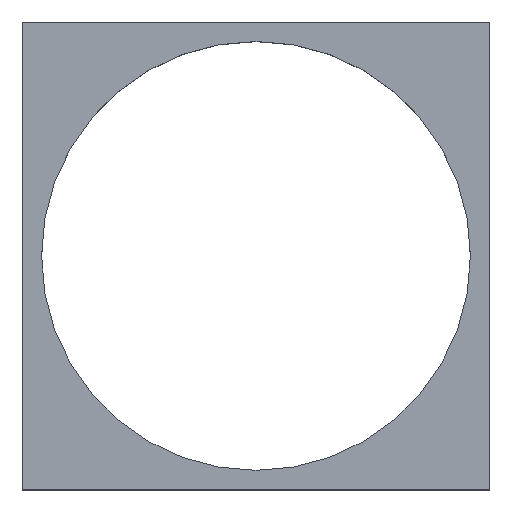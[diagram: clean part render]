
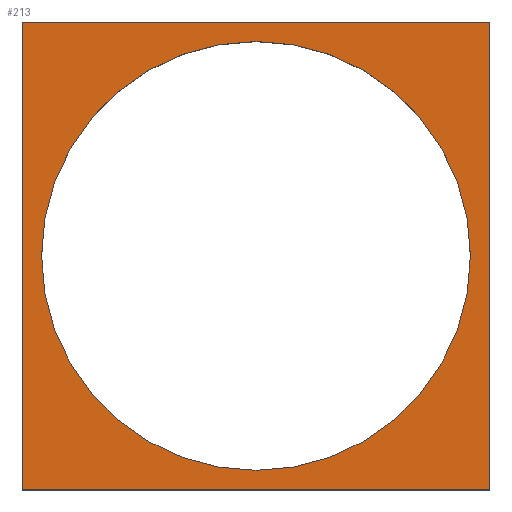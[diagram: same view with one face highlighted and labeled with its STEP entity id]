
A CAD part, top view. The second image highlights one B-rep face of the part: STEP entity #213.
In plain terms, the highlighted planar face has unit normal (0, 0, 1).
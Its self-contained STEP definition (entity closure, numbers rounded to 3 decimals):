
#24 = VERTEX_POINT('',#25);
#25 = CARTESIAN_POINT('',(20.,80.,737.));
#32 = PLANE('',#33);
#33 = AXIS2_PLACEMENT_3D('',#34,#35,#36);
#34 = CARTESIAN_POINT('',(20.,80.,712.));
#35 = DIRECTION('',(1.,0.,0.));
#36 = DIRECTION('',(0.,0.,1.));
#44 = PLANE('',#45);
#45 = AXIS2_PLACEMENT_3D('',#46,#47,#48);
#46 = CARTESIAN_POINT('',(20.,80.,712.));
#47 = DIRECTION('',(0.,1.,0.));
#48 = DIRECTION('',(0.,0.,1.));
#85 = VERTEX_POINT('',#86);
#86 = CARTESIAN_POINT('',(20.,200.,737.));
#100 = PLANE('',#101);
#101 = AXIS2_PLACEMENT_3D('',#102,#103,#104);
#102 = CARTESIAN_POINT('',(20.,200.,712.));
#103 = DIRECTION('',(0.,1.,0.));
#104 = DIRECTION('',(0.,0.,1.));
#112 = EDGE_CURVE('',#24,#85,#113,.T.);
#113 = SURFACE_CURVE('',#114,(#118,#125),.PCURVE_S1.);
#114 = LINE('',#115,#116);
#115 = CARTESIAN_POINT('',(20.,80.,737.));
#116 = VECTOR('',#117,1.);
#117 = DIRECTION('',(0.,1.,0.));
#118 = PCURVE('',#32,#119);
#119 = DEFINITIONAL_REPRESENTATION('',(#120),#124);
#120 = LINE('',#121,#122);
#121 = CARTESIAN_POINT('',(25.,0.));
#122 = VECTOR('',#123,1.);
#123 = DIRECTION('',(0.,-1.));
#124 = ( GEOMETRIC_REPRESENTATION_CONTEXT(2) 
PARAMETRIC_REPRESENTATION_CONTEXT() REPRESENTATION_CONTEXT('2D SPACE',''
  ) );
#125 = PCURVE('',#126,#131);
#126 = PLANE('',#127);
#127 = AXIS2_PLACEMENT_3D('',#128,#129,#130);
#128 = CARTESIAN_POINT('',(20.,80.,737.));
#129 = DIRECTION('',(0.,0.,1.));
#130 = DIRECTION('',(1.,0.,0.));
#131 = DEFINITIONAL_REPRESENTATION('',(#132),#136);
#132 = LINE('',#133,#134);
#133 = CARTESIAN_POINT('',(0.,0.));
#134 = VECTOR('',#135,1.);
#135 = DIRECTION('',(0.,1.));
#136 = ( GEOMETRIC_REPRESENTATION_CONTEXT(2) 
PARAMETRIC_REPRESENTATION_CONTEXT() REPRESENTATION_CONTEXT('2D SPACE',''
  ) );
#165 = EDGE_CURVE('',#24,#166,#168,.T.);
#166 = VERTEX_POINT('',#167);
#167 = CARTESIAN_POINT('',(140.,80.,737.));
#168 = SURFACE_CURVE('',#169,(#173,#180),.PCURVE_S1.);
#169 = LINE('',#170,#171);
#170 = CARTESIAN_POINT('',(20.,80.,737.));
#171 = VECTOR('',#172,1.);
#172 = DIRECTION('',(1.,0.,0.));
#173 = PCURVE('',#44,#174);
#174 = DEFINITIONAL_REPRESENTATION('',(#175),#179);
#175 = LINE('',#176,#177);
#176 = CARTESIAN_POINT('',(25.,0.));
#177 = VECTOR('',#178,1.);
#178 = DIRECTION('',(0.,1.));
#179 = ( GEOMETRIC_REPRESENTATION_CONTEXT(2) 
PARAMETRIC_REPRESENTATION_CONTEXT() REPRESENTATION_CONTEXT('2D SPACE',''
  ) );
#180 = PCURVE('',#126,#181);
#181 = DEFINITIONAL_REPRESENTATION('',(#182),#186);
#182 = LINE('',#183,#184);
#183 = CARTESIAN_POINT('',(0.,0.));
#184 = VECTOR('',#185,1.);
#185 = DIRECTION('',(1.,0.));
#186 = ( GEOMETRIC_REPRESENTATION_CONTEXT(2) 
PARAMETRIC_REPRESENTATION_CONTEXT() REPRESENTATION_CONTEXT('2D SPACE',''
  ) );
#202 = PLANE('',#203);
#203 = AXIS2_PLACEMENT_3D('',#204,#205,#206);
#204 = CARTESIAN_POINT('',(140.,80.,712.));
#205 = DIRECTION('',(1.,0.,0.));
#206 = DIRECTION('',(0.,0.,1.));
#213 = ADVANCED_FACE('',(#214,#262),#126,.T.);
#214 = FACE_BOUND('',#215,.T.);
#215 = EDGE_LOOP('',(#216,#217,#218,#241));
#216 = ORIENTED_EDGE('',*,*,#112,.F.);
#217 = ORIENTED_EDGE('',*,*,#165,.T.);
#218 = ORIENTED_EDGE('',*,*,#219,.T.);
#219 = EDGE_CURVE('',#166,#220,#222,.T.);
#220 = VERTEX_POINT('',#221);
#221 = CARTESIAN_POINT('',(140.,200.,737.));
#222 = SURFACE_CURVE('',#223,(#227,#234),.PCURVE_S1.);
#223 = LINE('',#224,#225);
#224 = CARTESIAN_POINT('',(140.,80.,737.));
#225 = VECTOR('',#226,1.);
#226 = DIRECTION('',(0.,1.,0.));
#227 = PCURVE('',#126,#228);
#228 = DEFINITIONAL_REPRESENTATION('',(#229),#233);
#229 = LINE('',#230,#231);
#230 = CARTESIAN_POINT('',(120.,0.));
#231 = VECTOR('',#232,1.);
#232 = DIRECTION('',(0.,1.));
#233 = ( GEOMETRIC_REPRESENTATION_CONTEXT(2) 
PARAMETRIC_REPRESENTATION_CONTEXT() REPRESENTATION_CONTEXT('2D SPACE',''
  ) );
#234 = PCURVE('',#202,#235);
#235 = DEFINITIONAL_REPRESENTATION('',(#236),#240);
#236 = LINE('',#237,#238);
#237 = CARTESIAN_POINT('',(25.,0.));
#238 = VECTOR('',#239,1.);
#239 = DIRECTION('',(0.,-1.));
#240 = ( GEOMETRIC_REPRESENTATION_CONTEXT(2) 
PARAMETRIC_REPRESENTATION_CONTEXT() REPRESENTATION_CONTEXT('2D SPACE',''
  ) );
#241 = ORIENTED_EDGE('',*,*,#242,.F.);
#242 = EDGE_CURVE('',#85,#220,#243,.T.);
#243 = SURFACE_CURVE('',#244,(#248,#255),.PCURVE_S1.);
#244 = LINE('',#245,#246);
#245 = CARTESIAN_POINT('',(20.,200.,737.));
#246 = VECTOR('',#247,1.);
#247 = DIRECTION('',(1.,0.,0.));
#248 = PCURVE('',#126,#249);
#249 = DEFINITIONAL_REPRESENTATION('',(#250),#254);
#250 = LINE('',#251,#252);
#251 = CARTESIAN_POINT('',(0.,120.));
#252 = VECTOR('',#253,1.);
#253 = DIRECTION('',(1.,0.));
#254 = ( GEOMETRIC_REPRESENTATION_CONTEXT(2) 
PARAMETRIC_REPRESENTATION_CONTEXT() REPRESENTATION_CONTEXT('2D SPACE',''
  ) );
#255 = PCURVE('',#100,#256);
#256 = DEFINITIONAL_REPRESENTATION('',(#257),#261);
#257 = LINE('',#258,#259);
#258 = CARTESIAN_POINT('',(25.,0.));
#259 = VECTOR('',#260,1.);
#260 = DIRECTION('',(0.,1.));
#261 = ( GEOMETRIC_REPRESENTATION_CONTEXT(2) 
PARAMETRIC_REPRESENTATION_CONTEXT() REPRESENTATION_CONTEXT('2D SPACE',''
  ) );
#262 = FACE_BOUND('',#263,.T.);
#263 = EDGE_LOOP('',(#264));
#264 = ORIENTED_EDGE('',*,*,#265,.T.);
#265 = EDGE_CURVE('',#266,#266,#268,.T.);
#266 = VERTEX_POINT('',#267);
#267 = CARTESIAN_POINT('',(135.,140.,737.));
#268 = SURFACE_CURVE('',#269,(#274,#285),.PCURVE_S1.);
#269 = CIRCLE('',#270,55.);
#270 = AXIS2_PLACEMENT_3D('',#271,#272,#273);
#271 = CARTESIAN_POINT('',(80.,140.,737.));
#272 = DIRECTION('',(0.,0.,-1.));
#273 = DIRECTION('',(1.,0.,0.));
#274 = PCURVE('',#126,#275);
#275 = DEFINITIONAL_REPRESENTATION('',(#276),#284);
#276 = ( BOUNDED_CURVE() B_SPLINE_CURVE(2,(#277,#278,#279,#280,#281,#282
,#283),.UNSPECIFIED.,.T.,.F.) B_SPLINE_CURVE_WITH_KNOTS((1,2,2,2,2,1),(
    -2.094,0.,2.094,4.189,6.283,
8.378),.UNSPECIFIED.) CURVE() GEOMETRIC_REPRESENTATION_ITEM() 
RATIONAL_B_SPLINE_CURVE((1.,0.5,1.,0.5,1.,0.5,1.)) REPRESENTATION_ITEM(
  '') );
#277 = CARTESIAN_POINT('',(115.,60.));
#278 = CARTESIAN_POINT('',(115.,-35.263));
#279 = CARTESIAN_POINT('',(32.5,12.369));
#280 = CARTESIAN_POINT('',(-50.,60.));
#281 = CARTESIAN_POINT('',(32.5,107.631));
#282 = CARTESIAN_POINT('',(115.,155.263));
#283 = CARTESIAN_POINT('',(115.,60.));
#284 = ( GEOMETRIC_REPRESENTATION_CONTEXT(2) 
PARAMETRIC_REPRESENTATION_CONTEXT() REPRESENTATION_CONTEXT('2D SPACE',''
  ) );
#285 = PCURVE('',#286,#291);
#286 = CYLINDRICAL_SURFACE('',#287,55.);
#287 = AXIS2_PLACEMENT_3D('',#288,#289,#290);
#288 = CARTESIAN_POINT('',(80.,140.,711.));
#289 = DIRECTION('',(-0.,-0.,-1.));
#290 = DIRECTION('',(1.,0.,0.));
#291 = DEFINITIONAL_REPRESENTATION('',(#292),#296);
#292 = LINE('',#293,#294);
#293 = CARTESIAN_POINT('',(-6.283,-26.));
#294 = VECTOR('',#295,1.);
#295 = DIRECTION('',(1.,-0.));
#296 = ( GEOMETRIC_REPRESENTATION_CONTEXT(2) 
PARAMETRIC_REPRESENTATION_CONTEXT() REPRESENTATION_CONTEXT('2D SPACE',''
  ) );
